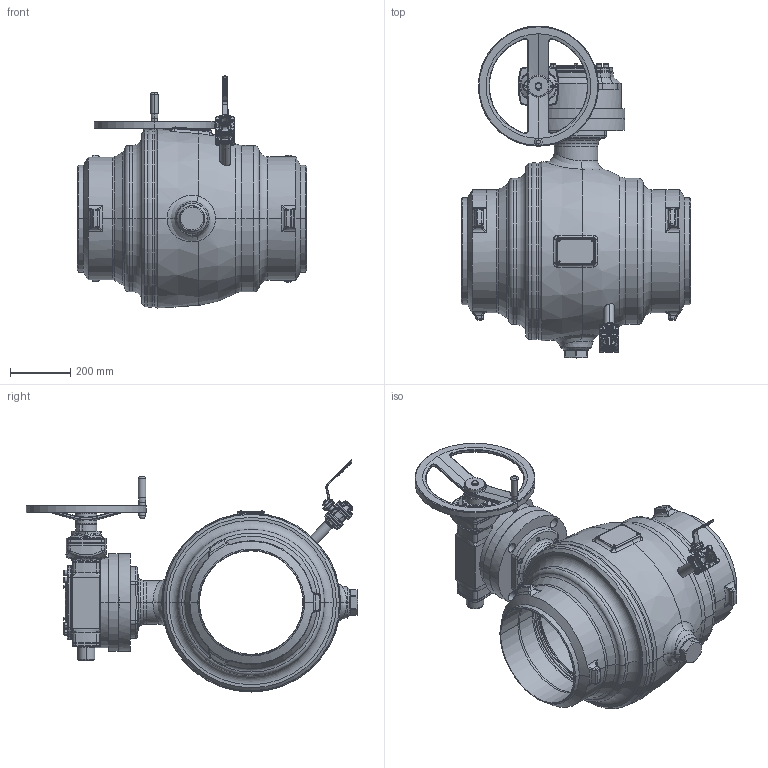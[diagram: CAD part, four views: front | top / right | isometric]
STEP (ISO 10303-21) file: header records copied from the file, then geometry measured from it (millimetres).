
FILE_DESCRIPTION((''),'2;1');
FILE_NAME('ASM0001_ASM','2026-01-28T10:49:15',('schwaba'),('KLINGER'),'CREO PARAMETRIC BY PTC INC, 2023014','CREO PARAMETRIC BY PTC INC, 2023014','');
FILE_SCHEMA(('CONFIG_CONTROL_DESIGN'));
Length unit declared in the file: millimetre
Products named in the file (3): KHSVI_350_FR_WE_ENTL; GS125_F25_AHR400_DN400; ASM0001_ASM
Assembly tree (2 placements, depth 2):
  ASM0001_ASM
    KHSVI_350_FR_WE_ENTL
    GS125_F25_AHR400_DN400
Bounding box: 762 x 1104 x 772.35 mm (x, y, z)
Volume: 66899263.7 mm3; surface area: 6014429.5 mm2
Topology: 9 solids, 9 shells, 4306 faces, 10122 edges, 5996 vertices
Faces by surface type: plane 1267, cylinder 1073, torus 715, bspline 628, cone 542, sphere 60, revolution 16, extrusion 5
Entity records: 238459 total; most frequent: CARTESIAN_POINT 144426, ORIENTED_EDGE 20144, DIRECTION 19214, EDGE_CURVE 10072, AXIS2_PLACEMENT_3D 8110, VERTEX_POINT 5996, EDGE_LOOP 4606, CIRCLE 4445
